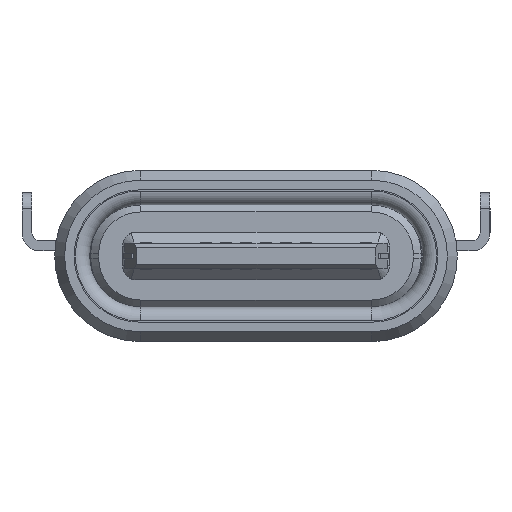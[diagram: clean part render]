
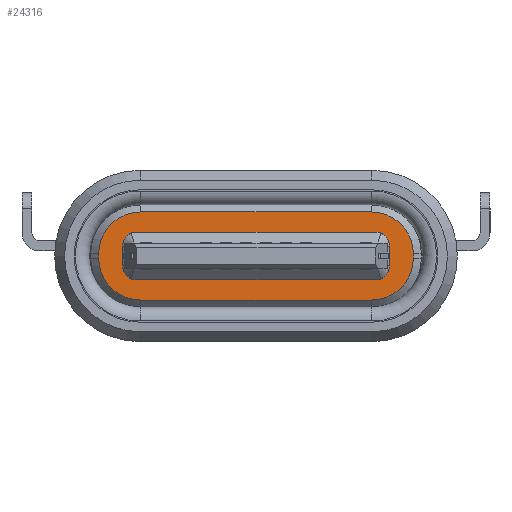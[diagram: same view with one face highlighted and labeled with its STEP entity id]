
A CAD part, front view. The second image highlights one B-rep face of the part: STEP entity #24316.
In plain terms, the highlighted planar face has unit normal (0, -1, 0) as drawn and (0, 0, -1) by its records, which use the part's own axes.
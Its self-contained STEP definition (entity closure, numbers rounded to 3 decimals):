
#10 = CARTESIAN_POINT ( 'NONE',  ( -4.112, 0.721, 4.45 ) ) ;
#311 = AXIS2_PLACEMENT_3D ( 'NONE', #13120, #2909, #22212 ) ;
#455 = VECTOR ( 'NONE', #3584, 1000. ) ;
#457 = EDGE_LOOP ( 'NONE', ( #12106, #24057, #13960, #1331, #19895, #15880, #4595, #1216 ) ) ;
#470 = CIRCLE ( 'NONE', #22817, 1.05 ) ;
#709 = CIRCLE ( 'NONE', #9211, 0.35 ) ;
#1098 = EDGE_CURVE ( 'NONE', #4591, #3663, #4800, .T. ) ;
#1133 = DIRECTION ( 'NONE',  ( 1., 0., 0. ) ) ;
#1216 = ORIENTED_EDGE ( 'NONE', *, *, #18883, .F. ) ;
#1243 = VERTEX_POINT ( 'NONE', #13964 ) ;
#1331 = ORIENTED_EDGE ( 'NONE', *, *, #27171, .F. ) ;
#1486 = CARTESIAN_POINT ( 'NONE',  ( 2.828, 1.266, 4.45 ) ) ;
#1862 = CARTESIAN_POINT ( 'NONE',  ( 3.778, 0.611, 4.45 ) ) ;
#1915 = CARTESIAN_POINT ( 'NONE',  ( 1.843, 0.291, 4.45 ) ) ;
#2909 = DIRECTION ( 'NONE',  ( 0., 0., -1. ) ) ;
#3051 = VERTEX_POINT ( 'NONE', #1862 ) ;
#3151 = EDGE_CURVE ( 'NONE', #9510, #4591, #25902, .T. ) ;
#3158 = CIRCLE ( 'NONE', #15219, 0.35 ) ;
#3584 = DIRECTION ( 'NONE',  ( 0., -1., 0. ) ) ;
#3663 = VERTEX_POINT ( 'NONE', #6834 ) ;
#3832 = AXIS2_PLACEMENT_3D ( 'NONE', #4153, #12688, #24988 ) ;
#4153 = CARTESIAN_POINT ( 'NONE',  ( -3.062, 0.611, 4.45 ) ) ;
#4242 = CIRCLE ( 'NONE', #10937, 1.05 ) ;
#4445 = CARTESIAN_POINT ( 'NONE',  ( -3.512, 0.916, 4.45 ) ) ;
#4489 = DIRECTION ( 'NONE',  ( 0., -1., 0. ) ) ;
#4591 = VERTEX_POINT ( 'NONE', #1486 ) ;
#4595 = ORIENTED_EDGE ( 'NONE', *, *, #18461, .F. ) ;
#4600 = LINE ( 'NONE', #25857, #24769 ) ;
#4697 = CARTESIAN_POINT ( 'NONE',  ( -3.162, 0.066, 4.45 ) ) ;
#4800 = CIRCLE ( 'NONE', #311, 0.35 ) ;
#4855 = CARTESIAN_POINT ( 'NONE',  ( -3.162, 0.916, 4.45 ) ) ;
#4940 = VERTEX_POINT ( 'NONE', #15565 ) ;
#5161 = DIRECTION ( 'NONE',  ( 0., -1., 0. ) ) ;
#5189 = LINE ( 'NONE', #22241, #6877 ) ;
#5486 = EDGE_CURVE ( 'NONE', #6895, #22578, #8755, .T. ) ;
#6036 = CIRCLE ( 'NONE', #10111, 0.35 ) ;
#6641 = VECTOR ( 'NONE', #17266, 1000. ) ;
#6709 = DIRECTION ( 'NONE',  ( 0., 1., 0. ) ) ;
#6834 = CARTESIAN_POINT ( 'NONE',  ( 3.178, 0.916, 4.45 ) ) ;
#6877 = VECTOR ( 'NONE', #13855, 1000. ) ;
#6895 = VERTEX_POINT ( 'NONE', #27201 ) ;
#7360 = DIRECTION ( 'NONE',  ( 1., 0., 0. ) ) ;
#7400 = CARTESIAN_POINT ( 'NONE',  ( -3.062, 1.771, 4.45 ) ) ;
#7908 = ORIENTED_EDGE ( 'NONE', *, *, #22719, .F. ) ;
#8056 = ORIENTED_EDGE ( 'NONE', *, *, #24086, .F. ) ;
#8216 = PLANE ( 'NONE',  #10490 ) ;
#8374 = CARTESIAN_POINT ( 'NONE',  ( 3.178, 0.416, 4.45 ) ) ;
#8577 = CARTESIAN_POINT ( 'NONE',  ( -3.162, 1.266, 4.45 ) ) ;
#8683 = LINE ( 'NONE', #10, #20670 ) ;
#8755 = CIRCLE ( 'NONE', #3832, 1.05 ) ;
#8839 = CIRCLE ( 'NONE', #10622, 1.05 ) ;
#9153 = EDGE_CURVE ( 'NONE', #9587, #26097, #6036, .T. ) ;
#9211 = AXIS2_PLACEMENT_3D ( 'NONE', #4855, #13381, #15617 ) ;
#9510 = VERTEX_POINT ( 'NONE', #27100 ) ;
#9587 = VERTEX_POINT ( 'NONE', #8374 ) ;
#10075 = DIRECTION ( 'NONE',  ( 0., 0., -1. ) ) ;
#10111 = AXIS2_PLACEMENT_3D ( 'NONE', #24480, #10075, #1133 ) ;
#10311 = FACE_OUTER_BOUND ( 'NONE', #457, .T. ) ;
#10490 = AXIS2_PLACEMENT_3D ( 'NONE', #1915, #10980, #15198 ) ;
#10622 = AXIS2_PLACEMENT_3D ( 'NONE', #25585, #16791, #19432 ) ;
#10937 = AXIS2_PLACEMENT_3D ( 'NONE', #24292, #22769, #5161 ) ;
#10980 = DIRECTION ( 'NONE',  ( 0., 0., -1. ) ) ;
#11104 = ORIENTED_EDGE ( 'NONE', *, *, #9153, .F. ) ;
#12106 = ORIENTED_EDGE ( 'NONE', *, *, #12780, .F. ) ;
#12189 = CARTESIAN_POINT ( 'NONE',  ( 2.728, 1.771, 4.45 ) ) ;
#12688 = DIRECTION ( 'NONE',  ( 0., 0., 1. ) ) ;
#12780 = EDGE_CURVE ( 'NONE', #22221, #21453, #8839, .T. ) ;
#12943 = CARTESIAN_POINT ( 'NONE',  ( 3.778, 0.611, 4.45 ) ) ;
#13120 = CARTESIAN_POINT ( 'NONE',  ( 2.828, 0.916, 4.45 ) ) ;
#13234 = VERTEX_POINT ( 'NONE', #4445 ) ;
#13381 = DIRECTION ( 'NONE',  ( 0., 0., -1. ) ) ;
#13570 = EDGE_CURVE ( 'NONE', #3051, #22221, #15039, .T. ) ;
#13855 = DIRECTION ( 'NONE',  ( -1., 0., 0. ) ) ;
#13960 = ORIENTED_EDGE ( 'NONE', *, *, #24167, .F. ) ;
#13964 = CARTESIAN_POINT ( 'NONE',  ( -4.112, 0.721, 4.45 ) ) ;
#14638 = VECTOR ( 'NONE', #7360, 1000. ) ;
#14718 = ORIENTED_EDGE ( 'NONE', *, *, #18311, .F. ) ;
#14765 = ORIENTED_EDGE ( 'NONE', *, *, #1098, .F. ) ;
#15039 = LINE ( 'NONE', #12943, #6641 ) ;
#15198 = DIRECTION ( 'NONE',  ( 0., -1., 0. ) ) ;
#15219 = AXIS2_PLACEMENT_3D ( 'NONE', #24178, #19852, #16093 ) ;
#15565 = CARTESIAN_POINT ( 'NONE',  ( 2.728, -0.439, 4.45 ) ) ;
#15604 = ORIENTED_EDGE ( 'NONE', *, *, #3151, .F. ) ;
#15617 = DIRECTION ( 'NONE',  ( -1., 0., 0. ) ) ;
#15880 = ORIENTED_EDGE ( 'NONE', *, *, #21530, .F. ) ;
#16093 = DIRECTION ( 'NONE',  ( 0., -1., 0. ) ) ;
#16170 = CARTESIAN_POINT ( 'NONE',  ( 2.828, 0.066, 4.45 ) ) ;
#16341 = EDGE_CURVE ( 'NONE', #3663, #9587, #27205, .T. ) ;
#16791 = DIRECTION ( 'NONE',  ( 0., 0., 1. ) ) ;
#17266 = DIRECTION ( 'NONE',  ( 0., 1., 0. ) ) ;
#18127 = LINE ( 'NONE', #18535, #14638 ) ;
#18311 = EDGE_CURVE ( 'NONE', #25997, #26121, #3158, .T. ) ;
#18461 = EDGE_CURVE ( 'NONE', #24952, #1243, #470, .T. ) ;
#18535 = CARTESIAN_POINT ( 'NONE',  ( -3.062, -0.439, 4.45 ) ) ;
#18883 = EDGE_CURVE ( 'NONE', #21453, #24952, #23632, .T. ) ;
#19432 = DIRECTION ( 'NONE',  ( 1., 0., 0. ) ) ;
#19852 = DIRECTION ( 'NONE',  ( 0., 0., -1. ) ) ;
#19895 = ORIENTED_EDGE ( 'NONE', *, *, #5486, .F. ) ;
#20079 = CARTESIAN_POINT ( 'NONE',  ( -3.512, 0.416, 4.45 ) ) ;
#20433 = CARTESIAN_POINT ( 'NONE',  ( 3.778, 0.721, 4.45 ) ) ;
#20670 = VECTOR ( 'NONE', #4489, 1000. ) ;
#21015 = VECTOR ( 'NONE', #23354, 1000. ) ;
#21068 = FACE_BOUND ( 'NONE', #22423, .T. ) ;
#21453 = VERTEX_POINT ( 'NONE', #12189 ) ;
#21530 = EDGE_CURVE ( 'NONE', #1243, #6895, #8683, .T. ) ;
#21538 = CARTESIAN_POINT ( 'NONE',  ( 2.728, 1.771, 4.45 ) ) ;
#22064 = ORIENTED_EDGE ( 'NONE', *, *, #25239, .F. ) ;
#22212 = DIRECTION ( 'NONE',  ( 0., 1., 0. ) ) ;
#22221 = VERTEX_POINT ( 'NONE', #20433 ) ;
#22241 = CARTESIAN_POINT ( 'NONE',  ( 2.828, 0.066, 4.45 ) ) ;
#22423 = EDGE_LOOP ( 'NONE', ( #22064, #8056, #14718, #7908, #11104, #25317, #14765, #15604 ) ) ;
#22578 = VERTEX_POINT ( 'NONE', #24184 ) ;
#22719 = EDGE_CURVE ( 'NONE', #26097, #25997, #5189, .T. ) ;
#22744 = CARTESIAN_POINT ( 'NONE',  ( 3.178, 0.916, 4.45 ) ) ;
#22769 = DIRECTION ( 'NONE',  ( 0., 0., 1. ) ) ;
#22817 = AXIS2_PLACEMENT_3D ( 'NONE', #23053, #25287, #26843 ) ;
#23053 = CARTESIAN_POINT ( 'NONE',  ( -3.062, 0.721, 4.45 ) ) ;
#23354 = DIRECTION ( 'NONE',  ( -1., 0., 0. ) ) ;
#23632 = LINE ( 'NONE', #21538, #21015 ) ;
#24057 = ORIENTED_EDGE ( 'NONE', *, *, #13570, .F. ) ;
#24086 = EDGE_CURVE ( 'NONE', #26121, #13234, #4600, .T. ) ;
#24167 = EDGE_CURVE ( 'NONE', #4940, #3051, #4242, .T. ) ;
#24178 = CARTESIAN_POINT ( 'NONE',  ( -3.162, 0.416, 4.45 ) ) ;
#24184 = CARTESIAN_POINT ( 'NONE',  ( -3.062, -0.439, 4.45 ) ) ;
#24292 = CARTESIAN_POINT ( 'NONE',  ( 2.728, 0.611, 4.45 ) ) ;
#24316 = ADVANCED_FACE ( 'NONE', ( #10311, #21068 ), #8216, .T. ) ;
#24480 = CARTESIAN_POINT ( 'NONE',  ( 2.828, 0.416, 4.45 ) ) ;
#24769 = VECTOR ( 'NONE', #6709, 1000. ) ;
#24952 = VERTEX_POINT ( 'NONE', #7400 ) ;
#24988 = DIRECTION ( 'NONE',  ( -1., 0., 0. ) ) ;
#25239 = EDGE_CURVE ( 'NONE', #13234, #9510, #709, .T. ) ;
#25287 = DIRECTION ( 'NONE',  ( 0., 0., 1. ) ) ;
#25317 = ORIENTED_EDGE ( 'NONE', *, *, #16341, .F. ) ;
#25490 = DIRECTION ( 'NONE',  ( 1., 0., 0. ) ) ;
#25585 = CARTESIAN_POINT ( 'NONE',  ( 2.728, 0.721, 4.45 ) ) ;
#25857 = CARTESIAN_POINT ( 'NONE',  ( -3.512, 0.416, 4.45 ) ) ;
#25902 = LINE ( 'NONE', #8577, #26967 ) ;
#25997 = VERTEX_POINT ( 'NONE', #4697 ) ;
#26097 = VERTEX_POINT ( 'NONE', #16170 ) ;
#26121 = VERTEX_POINT ( 'NONE', #20079 ) ;
#26843 = DIRECTION ( 'NONE',  ( 0., 1., 0. ) ) ;
#26967 = VECTOR ( 'NONE', #25490, 1000. ) ;
#27100 = CARTESIAN_POINT ( 'NONE',  ( -3.162, 1.266, 4.45 ) ) ;
#27171 = EDGE_CURVE ( 'NONE', #22578, #4940, #18127, .T. ) ;
#27201 = CARTESIAN_POINT ( 'NONE',  ( -4.112, 0.611, 4.45 ) ) ;
#27205 = LINE ( 'NONE', #22744, #455 ) ;
